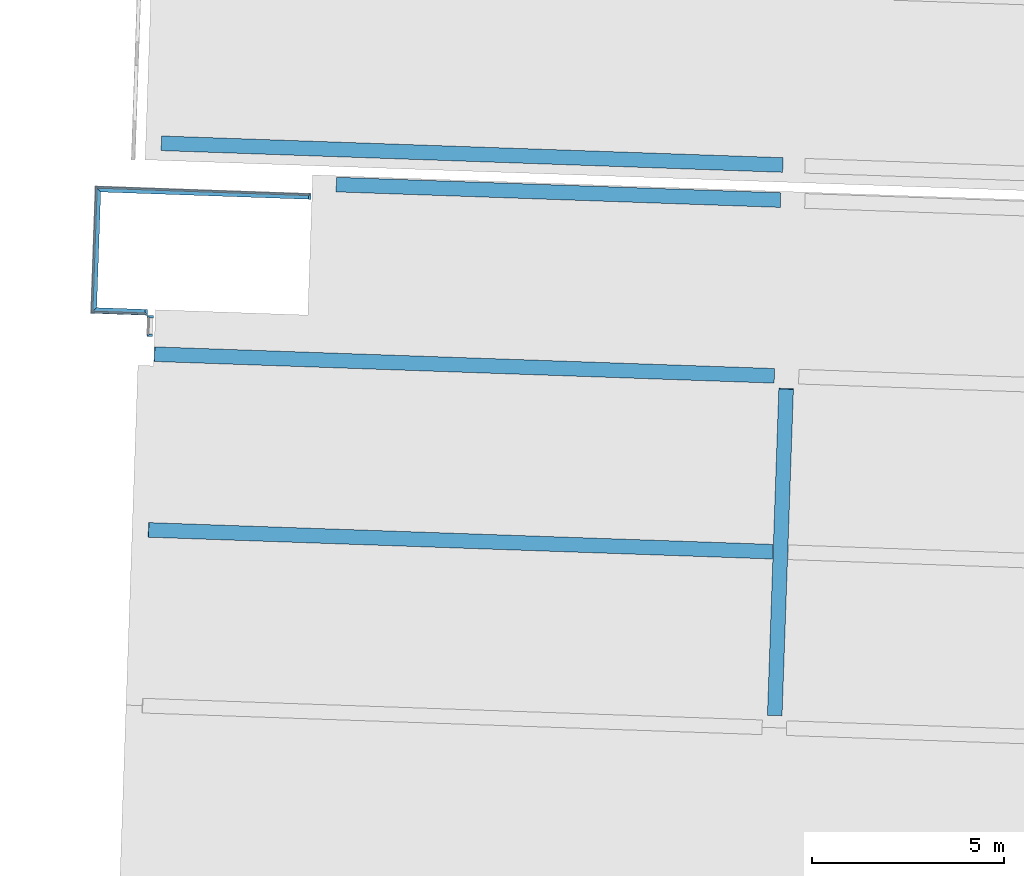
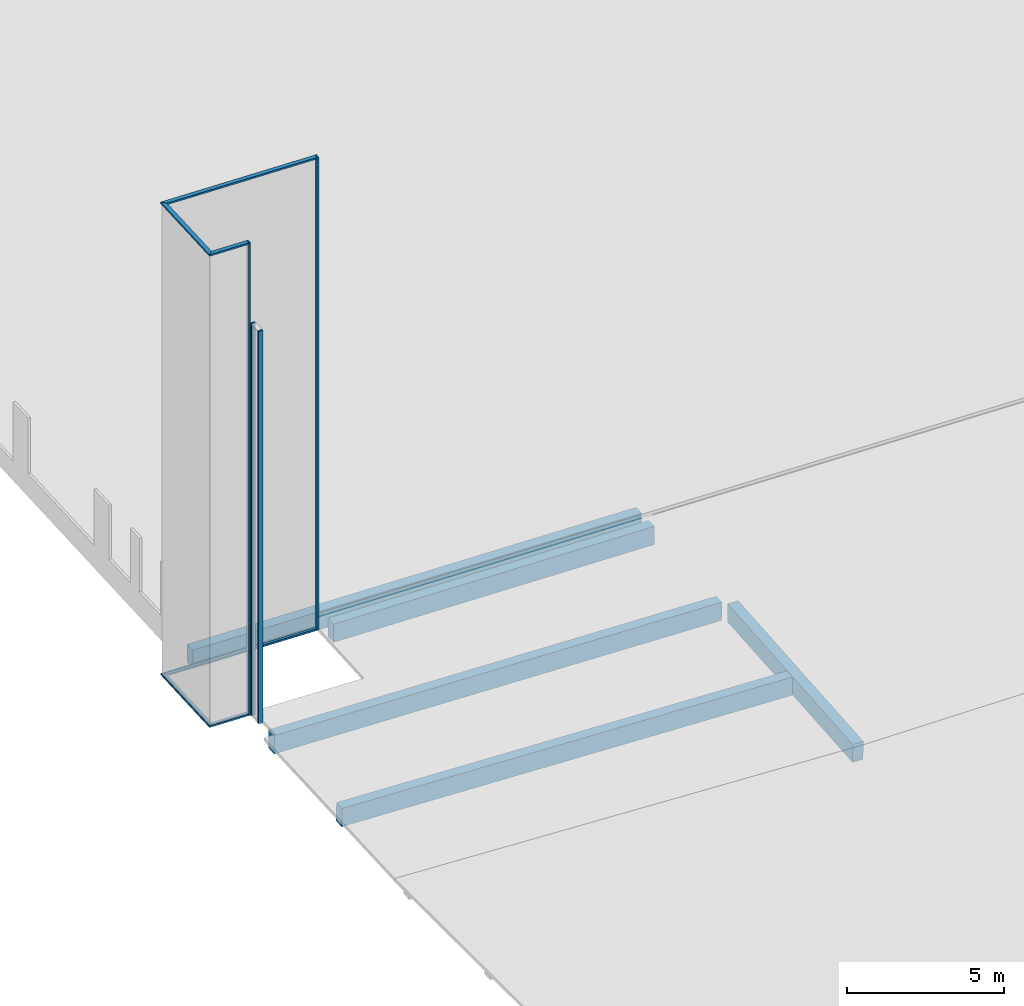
# One storey, part 3 of 17: 10 members, 5 beams, 4 elements without a shape of their own.
"""IFC2X3 building model written with IfcOpenShell, lengths in feet."""

from ifc_helpers import new_model, entity, si_unit, converted_unit, derived_unit, direction, frame, frame_2d, origin, place, context, subcontext, project, spatial, polyline, rectangle, outline, extrude, clip, halfspace, material, type_object, element, aggregate, save


model = new_model("IFC2X3")

# Units and contexts
model_context = context("Model", 3, precision=0.0001, world=origin(), true_north=direction((0.999390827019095, 0.0348994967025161)))
body_context = subcontext(model_context, "Body", "Model", "MODEL_VIEW")
ifc_project = project(units=[converted_unit("LENGTHUNIT", "FOOT", entity("IfcRatioMeasure", 0.3048), si_unit("LENGTHUNIT", "METRE"), dimensions=[1, 0, 0, 0, 0, 0, 0]), converted_unit("AREAUNIT", "SQUARE FOOT", entity("IfcRatioMeasure", 0.09290304), si_unit("AREAUNIT", "SQUARE_METRE"), dimensions=[2, 0, 0, 0, 0, 0, 0]), converted_unit("VOLUMEUNIT", "CUBIC FOOT", entity("IfcRatioMeasure", 0.028316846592), si_unit("VOLUMEUNIT", "CUBIC_METRE"), dimensions=[3, 0, 0, 0, 0, 0, 0]), converted_unit("PLANEANGLEUNIT", "DEGREE", entity("IfcRatioMeasure", 0.0174532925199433), si_unit("PLANEANGLEUNIT", "RADIAN"), dimensions=[0, 0, 0, 0, 0, 0, 0]), si_unit("MASSUNIT", "GRAM", prefix="KILO"), si_unit("TIMEUNIT", "SECOND"), si_unit("FREQUENCYUNIT", "HERTZ"), si_unit("THERMODYNAMICTEMPERATUREUNIT", "DEGREE_CELSIUS"), derived_unit("THERMALTRANSMITTANCEUNIT", [(si_unit("MASSUNIT", "GRAM", prefix="KILO"), 1), (si_unit("THERMODYNAMICTEMPERATUREUNIT", "KELVIN"), -1), (si_unit("TIMEUNIT", "SECOND"), -3)]), derived_unit("VOLUMETRICFLOWRATEUNIT", [(si_unit("LENGTHUNIT", "METRE"), 3), (si_unit("TIMEUNIT", "SECOND"), -1)]), si_unit("ELECTRICCURRENTUNIT", "AMPERE"), si_unit("ELECTRICVOLTAGEUNIT", "VOLT"), si_unit("POWERUNIT", "WATT"), si_unit("FORCEUNIT", "NEWTON"), si_unit("ILLUMINANCEUNIT", "LUX"), si_unit("LUMINOUSFLUXUNIT", "LUMEN"), si_unit("LUMINOUSINTENSITYUNIT", "CANDELA"), derived_unit("USERDEFINED", [(si_unit("MASSUNIT", "GRAM", prefix="KILO"), -1), (si_unit("LENGTHUNIT", "METRE"), -2), (si_unit("TIMEUNIT", "SECOND"), 3), (si_unit("LUMINOUSFLUXUNIT", "LUMEN"), 1)]), derived_unit("LINEARVELOCITYUNIT", [(si_unit("LENGTHUNIT", "METRE"), 1), (si_unit("TIMEUNIT", "SECOND"), -1)]), si_unit("PRESSUREUNIT", "PASCAL"), derived_unit("USERDEFINED", [(si_unit("LENGTHUNIT", "METRE"), -2), (si_unit("MASSUNIT", "GRAM", prefix="KILO"), 1), (si_unit("TIMEUNIT", "SECOND"), -2)])], contexts=[model_context])

# Site, building, storey
site_placement = place(None, frame((892.518771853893, 322.38689265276, 0.00393700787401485), z_axis=(0.0, 0.0, 1.0), x_axis=(0.0348994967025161, 0.999390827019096, 0.0)))
site = spatial("IfcSite", under=ifc_project, at=site_placement, Name="Default", CompositionType="ELEMENT")
building_placement = place(site_placement, origin())
building = spatial("IfcBuilding", under=site, at=building_placement, CompositionType="ELEMENT")
storey_placement = place(building_placement, frame((0.0, 0.0, 557.0)))
storey = spatial("IfcBuildingStorey", under=building, at=storey_placement, Name="Existing Garage - 1st Level", CompositionType="ELEMENT", Elevation=557.0)

# Curtain wall, members
curtain_wall_type = type_object("IfcCurtainWallType", Name="Curtain Wall:(Existing) Curtainwall - Blank", PredefinedType="NOTDEFINED")
curtain_wall_1_placement = place(storey_placement, frame((0.0, 0.0, -557.0)))
curtain_wall_1 = element("IfcCurtainWall", 1, at=curtain_wall_1_placement, inside=storey, type_object=curtain_wall_type, Name="Curtain Wall:(Existing) Curtainwall - Blank", ObjectType="Curtain Wall:(Existing) Curtainwall - Blank")
ifc_material_1 = material(Name="Metal - Aluminum")
member_1_placement = place(curtain_wall_1_placement, frame((0.0, 0.0, 544.75)))
member_1 = element("IfcMember", 2, at=member_1_placement, material=ifc_material_1, Name="Curtain Wall:(Existing) Curtainwall - Blank", ObjectType="Curtain Wall:(Existing) Curtainwall - Blank", context=body_context, shape_type="Clipping", body=[
    clip(extrude(outline(polyline([(-0.0716145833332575, -0.1875), (0.136718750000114, -0.1875), (0.136718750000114, 0.3125), (-0.0716145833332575, 0.3125), (-0.0716145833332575, 0.0), (0.00651041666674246, 0.0), (0.00651041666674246, -0.125), (-0.0716145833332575, -0.125), (-0.0716145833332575, -0.1875)])), frame((101.906463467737, 443.054849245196, 12.3867187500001), z_axis=(0.0, 1.0, 0.0), x_axis=(0.0, 0.0, -1.0)), (0.0, 0.0, 1.0), 18.2299375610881), halfspace(frame((101.968963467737, 461.159786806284, 11.25), z_axis=(-0.707106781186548, 0.707106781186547, 0.0), x_axis=(0.707106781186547, 0.707106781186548, 0.0)), False)),
])
member_2_placement = place(curtain_wall_1_placement, frame((0.0, 0.0, 544.75)))
member_2 = element("IfcMember", 3, at=member_2_placement, material=ifc_material_1, Name="Curtain Wall:(Existing) Curtainwall - Blank", ObjectType="Curtain Wall:(Existing) Curtainwall - Blank", context=body_context, shape_type="SweptSolid", body=[
    extrude(outline(polyline([(-0.1875, -0.136718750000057), (0.3125, -0.136718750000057), (0.3125, 0.0716145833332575), (0.0, 0.0716145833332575), (0.0, -0.00651041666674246), (-0.125, -0.00651041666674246), (-0.125, 0.0716145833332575), (-0.1875, 0.0716145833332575), (-0.1875, -0.136718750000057)])), frame((101.906463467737, 442.983234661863, 72.5), z_axis=(0.0, 0.0, -1.0), x_axis=(-1.0, 0.0, 0.0)), (0.0, 0.0, 1.0), 60.25),
])
member_3_placement = place(curtain_wall_1_placement, frame((0.0, 0.0, 544.75)))
member_3 = element("IfcMember", 4, at=member_3_placement, material=ifc_material_1, Name="Curtain Wall:(Existing) Curtainwall - Blank", ObjectType="Curtain Wall:(Existing) Curtainwall - Blank", context=body_context, shape_type="Clipping", body=[
    clip(extrude(outline(polyline([(-0.136718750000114, -0.312500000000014), (0.0716145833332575, -0.312500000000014), (0.0716145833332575, 0.0), (-0.00651041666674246, 0.0), (-0.00651041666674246, 0.124999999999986), (0.0716145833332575, 0.124999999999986), (0.0716145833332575, 0.187499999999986), (-0.136718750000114, 0.187499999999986), (-0.136718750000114, -0.312500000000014)])), frame((101.906463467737, 461.284786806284, 72.3632812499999), z_axis=(0.0, -1.0, 0.0), x_axis=(0.0, 0.0, -1.0)), (0.0, 0.0, 1.0), 18.2299375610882), halfspace(frame((101.968963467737, 461.159786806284, 73.5), z_axis=(-0.707106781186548, 0.707106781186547, 0.0), x_axis=(0.707106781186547, 0.707106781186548, 0.0)), False)),
])
aggregate(curtain_wall_1, [member_1, member_2, member_3])

curtain_wall_2_placement = place(storey_placement, frame((0.0, 0.0, -557.0)))
curtain_wall_2 = element("IfcCurtainWall", 5, at=curtain_wall_2_placement, inside=storey, type_object=curtain_wall_type, Name="Curtain Wall:(Existing) Curtainwall - Blank", ObjectType="Curtain Wall:(Existing) Curtainwall - Blank")
member_4_placement = place(curtain_wall_2_placement, frame((0.0, 0.0, 544.75)))
member_4 = element("IfcMember", 6, at=member_4_placement, material=ifc_material_1, Name="Curtain Wall:(Existing) Curtainwall - Blank", ObjectType="Curtain Wall:(Existing) Curtainwall - Blank", context=body_context, shape_type="Clipping", body=[
    clip(clip(extrude(outline(polyline([(-0.136718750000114, -0.312499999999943), (0.0716145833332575, -0.312499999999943), (0.0716145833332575, 0.0), (-0.00651041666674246, 0.0), (-0.00651041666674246, 0.125000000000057), (0.0716145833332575, 0.125000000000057), (0.0716145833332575, 0.187500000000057), (-0.136718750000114, 0.187500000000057), (-0.136718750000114, -0.312499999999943)])), frame((91.2189634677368, 461.097286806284, 72.3632812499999), z_axis=(1.0, 0.0, 0.0), x_axis=(0.0, 0.0, -1.0)), (0.0, 0.0, 1.0), 10.8749999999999), halfspace(frame((91.3439634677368, 461.159786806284, 73.5), z_axis=(-0.707106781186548, -0.707106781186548, 0.0), x_axis=(0.707106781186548, -0.707106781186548, 0.0)), False)), halfspace(frame((101.968963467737, 461.159786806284, 73.5), z_axis=(0.707106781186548, -0.707106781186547, 0.0), x_axis=(0.707106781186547, 0.707106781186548, 0.0)), False)),
])
member_5_placement = place(curtain_wall_2_placement, frame((0.0, 0.0, 544.75)))
member_5 = element("IfcMember", 7, at=member_5_placement, material=ifc_material_1, Name="Curtain Wall:(Existing) Curtainwall - Blank", ObjectType="Curtain Wall:(Existing) Curtainwall - Blank", context=body_context, shape_type="Clipping", body=[
    clip(clip(extrude(outline(polyline([(-0.0716145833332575, -0.187500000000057), (0.136718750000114, -0.187500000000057), (0.136718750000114, 0.312499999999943), (-0.0716145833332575, 0.312499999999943), (-0.0716145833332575, 0.0), (0.00651041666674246, 0.0), (0.00651041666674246, -0.125000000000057), (-0.0716145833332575, -0.125000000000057), (-0.0716145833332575, -0.187500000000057)])), frame((102.093963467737, 461.097286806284, 12.3867187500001), z_axis=(-1.0, 0.0, 0.0), x_axis=(0.0, 0.0, -1.0)), (0.0, 0.0, 1.0), 10.875), halfspace(frame((91.3439634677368, 461.159786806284, 11.25), z_axis=(-0.707106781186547, -0.707106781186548, 0.0), x_axis=(0.707106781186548, -0.707106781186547, 0.0)), False)), halfspace(frame((101.968963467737, 461.159786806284, 11.25), z_axis=(0.707106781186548, -0.707106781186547, 0.0), x_axis=(0.707106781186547, 0.707106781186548, 0.0)), False)),
])
aggregate(curtain_wall_2, [member_4, member_5])

curtain_wall_3_placement = place(storey_placement, frame((0.0, 0.0, -557.0)))
curtain_wall_3 = element("IfcCurtainWall", 8, at=curtain_wall_3_placement, inside=storey, type_object=curtain_wall_type, Name="Curtain Wall:(Existing) Curtainwall - Blank", ObjectType="Curtain Wall:(Existing) Curtainwall - Blank")
member_6_placement = place(curtain_wall_3_placement, frame((0.0, 0.0, 544.75)))
member_6 = element("IfcMember", 9, at=member_6_placement, material=ifc_material_1, Name="Curtain Wall:(Existing) Curtainwall - Blank", ObjectType="Curtain Wall:(Existing) Curtainwall - Blank", context=body_context, shape_type="Clipping", body=[
    clip(extrude(outline(polyline([(-0.0716145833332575, -0.187500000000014), (0.136718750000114, -0.187500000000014), (0.136718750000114, 0.312499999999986), (-0.0716145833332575, 0.312499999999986), (-0.0716145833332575, 0.0), (0.00651041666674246, 0.0), (0.00651041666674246, -0.125000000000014), (-0.0716145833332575, -0.125000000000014), (-0.0716145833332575, -0.187500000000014)])), frame((91.4064634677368, 461.284786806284, 12.3867187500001), z_axis=(0.0, -1.0, 0.0), x_axis=(0.0, 0.0, -1.0)), (0.0, 0.0, 1.0), 4.64583333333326), halfspace(frame((91.3439634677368, 461.159786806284, 11.25), z_axis=(0.707106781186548, 0.707106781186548, 0.0), x_axis=(0.707106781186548, -0.707106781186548, 0.0)), False)),
])
member_7_placement = place(curtain_wall_3_placement, frame((0.0, 0.0, 544.75)))
member_7 = element("IfcMember", 10, at=member_7_placement, material=ifc_material_1, Name="Curtain Wall:(Existing) Curtainwall - Blank", ObjectType="Curtain Wall:(Existing) Curtainwall - Blank", context=body_context, shape_type="SweptSolid", body=[
    extrude(outline(polyline([(0.125000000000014, -0.0716145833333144), (0.187500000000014, -0.0716145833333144), (0.187500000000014, 0.13671875), (-0.312499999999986, 0.13671875), (-0.312499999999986, -0.0716145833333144), (0.0, -0.0716145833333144), (0.0, 0.00651041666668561), (0.125000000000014, 0.00651041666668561), (0.125000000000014, -0.0716145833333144)])), frame((91.4064634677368, 456.567338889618, 12.25), z_axis=(0.0, 0.0, 1.0), x_axis=(-1.0, 0.0, 0.0)), (0.0, 0.0, 1.0), 60.25),
])
member_8_placement = place(curtain_wall_3_placement, frame((0.0, 0.0, 544.75)))
member_8 = element("IfcMember", 11, at=member_8_placement, material=ifc_material_1, Name="Curtain Wall:(Existing) Curtainwall - Blank", ObjectType="Curtain Wall:(Existing) Curtainwall - Blank", context=body_context, shape_type="Clipping", body=[
    clip(extrude(outline(polyline([(-0.136718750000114, -0.312499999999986), (0.0716145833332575, -0.312499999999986), (0.0716145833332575, 0.0), (-0.00651041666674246, 0.0), (-0.00651041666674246, 0.125000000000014), (0.0716145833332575, 0.125000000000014), (0.0716145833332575, 0.187500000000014), (-0.136718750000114, 0.187500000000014), (-0.136718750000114, -0.312499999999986)])), frame((91.4064634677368, 456.638953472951, 72.3632812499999), z_axis=(0.0, 1.0, 0.0), x_axis=(0.0, 0.0, -1.0)), (0.0, 0.0, 1.0), 4.64583333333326), halfspace(frame((91.3439634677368, 461.159786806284, 73.5), z_axis=(0.707106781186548, 0.707106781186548, 0.0), x_axis=(0.707106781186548, -0.707106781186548, 0.0)), False)),
])
aggregate(curtain_wall_3, [member_6, member_7, member_8])

curtain_wall_4_placement = place(storey_placement, frame((0.0, 0.0, -557.0)))
curtain_wall_4 = element("IfcCurtainWall", 12, at=curtain_wall_4_placement, inside=storey, type_object=curtain_wall_type, Name="Curtain Wall:(Existing) Curtainwall - Blank", ObjectType="Curtain Wall:(Existing) Curtainwall - Blank")
member_9_placement = place(curtain_wall_4_placement, frame((0.0, 0.0, 544.75)))
member_9 = element("IfcMember", 13, at=member_9_placement, material=ifc_material_1, Name="Curtain Wall:(Existing) Curtainwall - Blank", ObjectType="Curtain Wall:(Existing) Curtainwall - Blank", context=body_context, shape_type="SweptSolid", body=[
    extrude(outline(polyline([(-0.0716145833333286, -0.312499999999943), (0.13671875, -0.312499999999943), (0.13671875, 0.187500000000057), (-0.0716145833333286, 0.187500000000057), (-0.0716145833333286, 0.125000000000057), (0.0065104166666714, 0.125000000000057), (0.0065104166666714, 0.0), (-0.0716145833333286, 0.0), (-0.0716145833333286, -0.312499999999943)])), frame((89.5640155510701, 456.243120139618, 62.25), z_axis=(0.0, 0.0, -1.0), x_axis=(-1.0, 0.0, 0.0)), (0.0, 0.0, 1.0), 50.0),
])
member_10_placement = place(curtain_wall_4_placement, frame((0.0, 0.0, 544.75)))
member_10 = element("IfcMember", 14, at=member_10_placement, material=ifc_material_1, Name="Curtain Wall:(Existing) Curtainwall - Blank", ObjectType="Curtain Wall:(Existing) Curtainwall - Blank", context=body_context, shape_type="SweptSolid", body=[
    extrude(outline(polyline([(-0.13671875, -0.187500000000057), (0.0716145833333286, -0.187500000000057), (0.0716145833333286, -0.125000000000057), (-0.0065104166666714, -0.125000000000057), (-0.0065104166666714, 0.0), (0.0716145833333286, 0.0), (0.0716145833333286, 0.312499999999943), (-0.13671875, 0.312499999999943), (-0.13671875, -0.187500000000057)])), frame((91.0822447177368, 456.243120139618, 12.25), z_axis=(0.0, 0.0, 1.0), x_axis=(-1.0, 0.0, 0.0)), (0.0, 0.0, 1.0), 50.0),
])
aggregate(curtain_wall_4, [member_9, member_10])

# Beams
ifc_material_2 = material(Name="Concrete - Precast Concrete - Normal Weight - 5 ksi")
beam_1_placement = place(storey_placement, frame((105.927293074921, 456.763953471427, -0.63671875), z_axis=(0.0, 0.0, 1.0), x_axis=(0.0, -1.0, 0.0)))
element("IfcBeam", 15, at=beam_1_placement, inside=storey, material=ifc_material_2, Name="Precast-Rectangular Beam:15 x 28 (33 w/ 5\" Conc Slab)", ObjectType="Precast-Rectangular Beam:15 x 28 (33 w/ 5\" Conc Slab)", context=body_context, shape_type="SweptSolid", body=[
    extrude(rectangle(XDim=2.33333333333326, YDim=1.25000000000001, at=frame_2d((0.0, -7.105427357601e-15), x_axis=(1.0, 0.0))), frame((1.00119401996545, 0.0, -1.16666666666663), z_axis=(1.0, 0.0, 0.0), x_axis=(0.0, 0.0, -1.0)), (0.0, 0.0, 1.0), 53.0572739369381),
])
beam_2_placement = place(storey_placement, frame((57.9272542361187, 401.76395347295, -1.58667000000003), z_axis=(-0.0259911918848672, 0.0, 0.999662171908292), x_axis=(0.999662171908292, 0.0, 0.0259911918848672)))
element("IfcBeam", 16, at=beam_2_placement, inside=storey, material=ifc_material_2, Name="Precast-Rectangular Beam:15 x 28 (33 w/ 5\" Conc Slab)", ObjectType="Precast-Rectangular Beam:15 x 28 (33 w/ 5\" Conc Slab)", context=body_context, shape_type="SweptSolid", body=[
    extrude(rectangle(XDim=2.3333333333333, YDim=1.25, at=frame_2d((1.11022302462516e-16, 0.0), x_axis=(1.0, 0.0))), frame((1.04200460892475, 0.0, -1.16666666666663), z_axis=(1.0, 0.0, 0.0), x_axis=(0.0, 0.0, -1.0)), (0.0, 0.0, 1.0), 27.8655050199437),
])
beam_3_placement = place(storey_placement, frame((72.9272968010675, 456.76395347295, -0.416669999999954), z_axis=(0.0, -0.0141803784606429, 0.999899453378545), x_axis=(1.43933322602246e-08, -0.999899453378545, -0.0141803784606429)))
element("IfcBeam", 17, at=beam_3_placement, inside=storey, material=ifc_material_2, Name="Precast-Rectangular Beam:15 x 28 (33 w/ 5\" Conc Slab)", ObjectType="Precast-Rectangular Beam:15 x 28 (33 w/ 5\" Conc Slab)", context=body_context, shape_type="SweptSolid", body=[
    extrude(rectangle(XDim=2.33333333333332, YDim=1.25000000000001, at=frame_2d((1.14130926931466e-13, -7.105427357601e-15), x_axis=(1.0, 0.0))), frame((1.07485810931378, 0.0, -1.16666666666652), z_axis=(1.0, 0.0, 0.0), x_axis=(0.0, 0.0, -1.0)), (0.0, 0.0, 1.0), 53.2639430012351),
])
beam_4_placement = place(storey_placement, frame((87.9272968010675, 456.763953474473, -0.416669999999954), z_axis=(0.0, -0.00708952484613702, 0.999974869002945), x_axis=(0.0, -0.999974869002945, -0.00708952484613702)))
element("IfcBeam", 18, at=beam_4_placement, inside=storey, material=ifc_material_2, Name="Precast-Rectangular Beam:15 x 28 (33 w/ 5\" Conc Slab)", ObjectType="Precast-Rectangular Beam:15 x 28 (33 w/ 5\" Conc Slab)", context=body_context, shape_type="SweptSolid", body=[
    extrude(rectangle(XDim=2.33333333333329, YDim=1.25000000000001, at=frame_2d((2.22044604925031e-16, -7.105427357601e-15), x_axis=(1.0, 0.0))), frame((1.05823444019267, 0.0, -1.16666666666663), z_axis=(1.0, 0.0, 0.0), x_axis=(0.0, 0.0, -1.0)), (0.0, 0.0, 1.0), 52.9014560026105),
])
beam_5_placement = place(storey_placement, frame((102.927296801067, 441.764724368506, -0.416669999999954), z_axis=(0.0, 0.0, 1.0), x_axis=(0.0, -1.0, 0.0)))
element("IfcBeam", 19, at=beam_5_placement, inside=storey, material=ifc_material_2, Name="Precast-Rectangular Beam:15 x 28 (33 w/ 5\" Conc Slab)", ObjectType="Precast-Rectangular Beam:15 x 28 (33 w/ 5\" Conc Slab)", context=body_context, shape_type="SweptSolid", body=[
    extrude(rectangle(XDim=2.33333333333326, YDim=1.25000000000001, at=frame_2d((0.0, 7.105427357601e-15), x_axis=(1.0, 0.0))), frame((1.04243756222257, 0.0, -1.16666666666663), z_axis=(1.0, 0.0, 0.0), x_axis=(0.0, 0.0, -1.0)), (0.0, 0.0, 1.0), 37.9166666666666),
])

save(model, "model.ifc")
